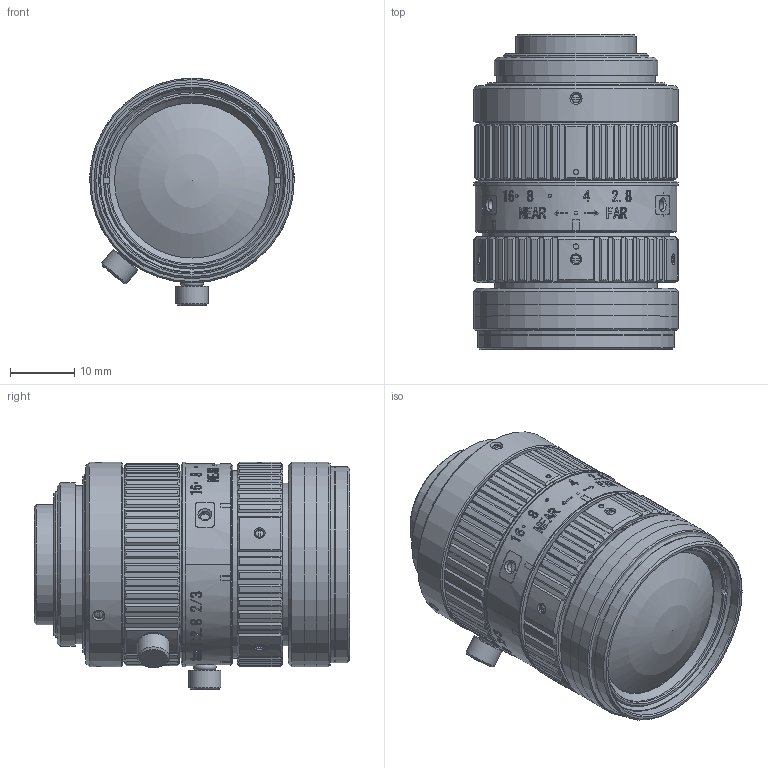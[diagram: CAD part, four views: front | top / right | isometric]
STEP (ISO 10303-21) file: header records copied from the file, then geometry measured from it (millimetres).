
FILE_DESCRIPTION(/* description */ ('Unknown'),/* implementation_level */ '2;1');
FILE_NAME(/* name */ 'M0828MPX_Outline_240925',/* time_stamp */ '2024-09-25T17:21:39+09:00',/* author */ ('Unknown'),/* organization */ ('Unknown'),/* preprocessor_version */ 'ST-DEVELOPER v18.102',/* originating_system */ 'Solid Edge',/* authorisation */ 'Unknown');
FILE_SCHEMA (('AUTOMOTIVE_DESIGN {1 0 10303 214 3 1 1}'));
Length unit declared in the file: millimetre
Products named in the file (5): M0828MPX_Outline_240925; Fix-Screw; Fixed-Barrel; Lens-Barrel_inf; Lens-Barrel_Mod
Assembly tree (4 placements, depth 2):
  M0828MPX_Outline_240925
    Fix-Screw
    Fixed-Barrel
    Lens-Barrel_inf
    Lens-Barrel_Mod
Bounding box: 31.8 x 49 x 35.35 mm (x, y, z)
Surface area: 18175.3 mm2
Topology: 7 solids, 9 shells, 1322 faces, 3441 edges, 2258 vertices
Faces by surface type: plane 735, cylinder 248, bspline 170, cone 148, sphere 19, torus 2
Full cylindrical faces by diameter (mm): 0.8 x2, 1.321 x8, 1.4 x1, 1.5 x2, 1.567 x5, 2 x4, 2.4 x1, 2.8 x1, 3 x1, 4.5 x2, 4.999 x2, 13.8 x1, 16.459 x1, 18 x1, 18.7 x1, 22.6 x1, 22.65 x1, 24.1 x2, 24.6 x1, 25.3 x2, 25.4 x1, 28 x1, 28.7 x2, 28.817 x2, 29 x1, 29.2 x1, 29.7 x2, 29.9 x1, 30 x3, 30.2 x1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
Entity records: 58709 total; most frequent: CARTESIAN_POINT 19361, ORIENTED_EDGE 6514, DIRECTION 5536, EDGE_CURVE 3257, VERTEX_POINT 2208, AXIS2_PLACEMENT_3D 2153, FACE_BOUND 1581, EDGE_LOOP 1579
